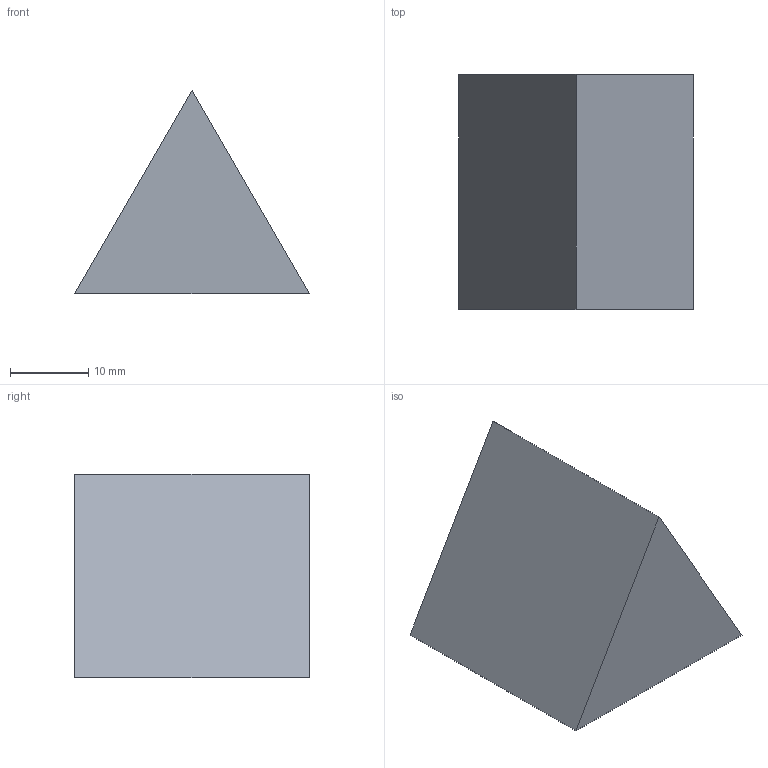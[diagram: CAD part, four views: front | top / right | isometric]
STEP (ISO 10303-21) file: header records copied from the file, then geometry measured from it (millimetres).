
FILE_DESCRIPTION((''),'2;1');
FILE_NAME('Z:\1図面ﾃﾞｰﾀ\7_素子\プリズム\7_６０°分散プリズム\DPB\DPB-30-10H\DPB-30-10H.stp','2009-05-27T14:12:41',('kawashima'),(''),'Autodesk Inventor 2008','Autodesk Inventor 2008','');
FILE_SCHEMA(('AUTOMOTIVE_DESIGN { 1 0 10303 214 1 1 1 1 }'));
Length unit declared in the file: millimetre
Products named in the file (1): DPB-30-10H
Bounding box: 30 x 30 x 25.98 mm (x, y, z)
Volume: 11691.3 mm3; surface area: 3479.4 mm2
Topology: 1 solids, 1 shells, 5 faces, 9 edges, 6 vertices
Faces by surface type: plane 5
Entity records: 149 total; most frequent: CARTESIAN_POINT 21, DIRECTION 21, ORIENTED_EDGE 18, VECTOR 9, LINE 9, EDGE_CURVE 9, AXIS2_PLACEMENT_3D 6, VERTEX_POINT 6
